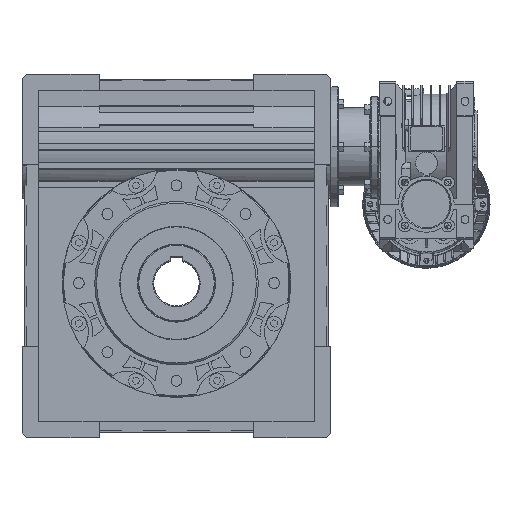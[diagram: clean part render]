
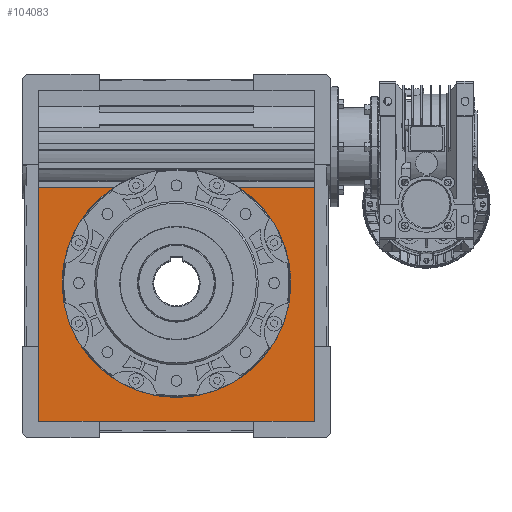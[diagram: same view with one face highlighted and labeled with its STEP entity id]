
A CAD part, top view. The second image highlights one B-rep face of the part: STEP entity #104083.
In plain terms, the highlighted planar face has unit normal (0, 0, 1).
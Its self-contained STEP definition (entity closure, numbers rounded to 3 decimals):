
#27124 = CARTESIAN_POINT ( 'NONE',  ( -430., -302., 35. ) ) ;
#27127 = DIRECTION ( 'NONE',  ( 1., 0., 0. ) ) ;
#27164 = CARTESIAN_POINT ( 'NONE',  ( -126., -302., 35. ) ) ;
#27166 = DIRECTION ( 'NONE',  ( 0., 1., 0. ) ) ;
#27183 = DIRECTION ( 'NONE',  ( 0., -1., 0. ) ) ;
#27185 = CARTESIAN_POINT ( 'NONE',  ( -430., -302., 35. ) ) ;
#27776 = CARTESIAN_POINT ( 'NONE',  ( -430., -45.083, 35. ) ) ;
#27780 = DIRECTION ( 'NONE',  ( -1., 0., 0. ) ) ;
#27902 = CARTESIAN_POINT ( 'NONE',  ( -430., -45.083, 35. ) ) ;
#27906 = DIRECTION ( 'NONE',  ( -1., 0., 0. ) ) ;
#27960 = CARTESIAN_POINT ( 'NONE',  ( -278., -150., 35. ) ) ;
#27961 = DIRECTION ( 'NONE',  ( 0., 0., 1. ) ) ;
#27964 = DIRECTION ( 'NONE',  ( 0., -1., 0. ) ) ;
#28870 = LINE ( 'NONE', #27124, #28873 ) ;
#28873 = VECTOR ( 'NONE', #27127, 1000. ) ;
#28884 = LINE ( 'NONE', #27164, #28887 ) ;
#28887 = VECTOR ( 'NONE', #27166, 1000. ) ;
#28897 = LINE ( 'NONE', #27185, #28899 ) ;
#28899 = VECTOR ( 'NONE', #27183, 1000. ) ;
#29123 = LINE ( 'NONE', #27776, #29125 ) ;
#29125 = VECTOR ( 'NONE', #27780, 1000. ) ;
#29142 = LINE ( 'NONE', #27902, #29144 ) ;
#29144 = VECTOR ( 'NONE', #27906, 1000. ) ;
#29145 = CIRCLE ( 'NONE', #131886, 125.8 ) ;
#32184 = AXIS2_PLACEMENT_3D ( 'NONE', #35626, #35628, #35630 ) ;
#33129 = AXIS2_PLACEMENT_3D ( 'NONE', #71691, #71706, #71708 ) ;
#35626 = CARTESIAN_POINT ( 'NONE',  ( -278., -150., 35. ) ) ;
#35628 = DIRECTION ( 'NONE',  ( 0., 0., 1. ) ) ;
#35630 = DIRECTION ( 'NONE',  ( 0., -1., 0. ) ) ;
#38818 = CIRCLE ( 'NONE', #32184, 125.8 ) ;
#65534 = FACE_OUTER_BOUND ( 'NONE', #114962, .T. ) ;
#68860 = EDGE_CURVE ( 'NONE', #108580, #108562, #28870, .T. ) ;
#68868 = EDGE_CURVE ( 'NONE', #108562, #108586, #28884, .T. ) ;
#68875 = EDGE_CURVE ( 'NONE', #108550, #108580, #28897, .T. ) ;
#68995 = EDGE_CURVE ( 'NONE', #108586, #115184, #29123, .T. ) ;
#69007 = EDGE_CURVE ( 'NONE', #108704, #108550, #29142, .T. ) ;
#69009 = EDGE_CURVE ( 'NONE', #108704, #115020, #29145, .T. ) ;
#71688 = PLANE ( 'NONE',  #33129 ) ;
#71691 = CARTESIAN_POINT ( 'NONE',  ( -430., -302., 35. ) ) ;
#71706 = DIRECTION ( 'NONE',  ( 0., 0., 1. ) ) ;
#71708 = DIRECTION ( 'NONE',  ( 1., 0., 0. ) ) ;
#83816 = EDGE_CURVE ( 'NONE', #115020, #115184, #38818, .T. ) ;
#87642 = ORIENTED_EDGE ( 'NONE', *, *, #69007, .T. ) ;
#87643 = ORIENTED_EDGE ( 'NONE', *, *, #68875, .T. ) ;
#87646 = ORIENTED_EDGE ( 'NONE', *, *, #68860, .T. ) ;
#87648 = ORIENTED_EDGE ( 'NONE', *, *, #68868, .T. ) ;
#87650 = ORIENTED_EDGE ( 'NONE', *, *, #68995, .T. ) ;
#87651 = ORIENTED_EDGE ( 'NONE', *, *, #83816, .F. ) ;
#87653 = ORIENTED_EDGE ( 'NONE', *, *, #69009, .F. ) ;
#104083 = ADVANCED_FACE ( 'NONE', ( #65534 ), #71688, .T. ) ;
#108550 = VERTEX_POINT ( 'NONE', #112098 ) ;
#108562 = VERTEX_POINT ( 'NONE', #112099 ) ;
#108580 = VERTEX_POINT ( 'NONE', #112106 ) ;
#108586 = VERTEX_POINT ( 'NONE', #112112 ) ;
#108704 = VERTEX_POINT ( 'NONE', #112169 ) ;
#112098 = CARTESIAN_POINT ( 'NONE',  ( -430., -45.083, 35. ) ) ;
#112099 = CARTESIAN_POINT ( 'NONE',  ( -126., -302., 35. ) ) ;
#112106 = CARTESIAN_POINT ( 'NONE',  ( -430., -302., 35. ) ) ;
#112112 = CARTESIAN_POINT ( 'NONE',  ( -126., -45.083, 35. ) ) ;
#112169 = CARTESIAN_POINT ( 'NONE',  ( -347.413, -45.083, 35. ) ) ;
#112866 = CARTESIAN_POINT ( 'NONE',  ( -278., -275.8, 35. ) ) ;
#112950 = CARTESIAN_POINT ( 'NONE',  ( -208.587, -45.083, 35. ) ) ;
#114962 = EDGE_LOOP ( 'NONE', ( #87642, #87643, #87646, #87648, #87650, #87651, #87653 ) ) ;
#115020 = VERTEX_POINT ( 'NONE', #112866 ) ;
#115184 = VERTEX_POINT ( 'NONE', #112950 ) ;
#131886 = AXIS2_PLACEMENT_3D ( 'NONE', #27960, #27961, #27964 ) ;
